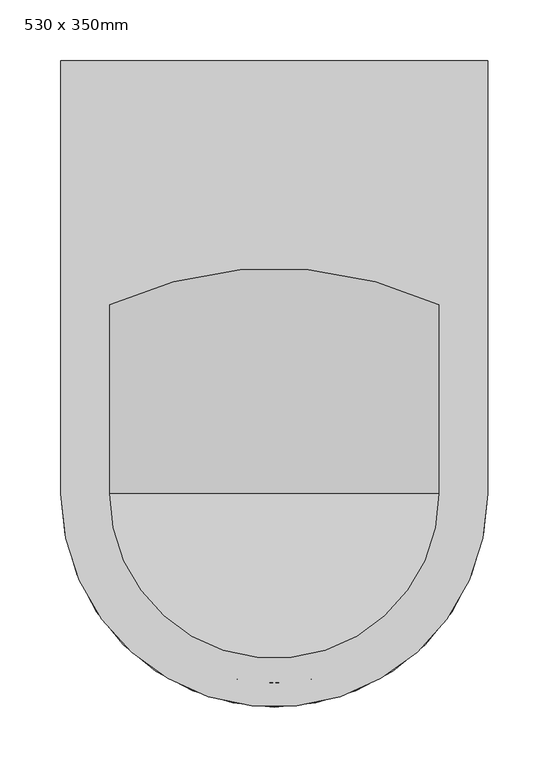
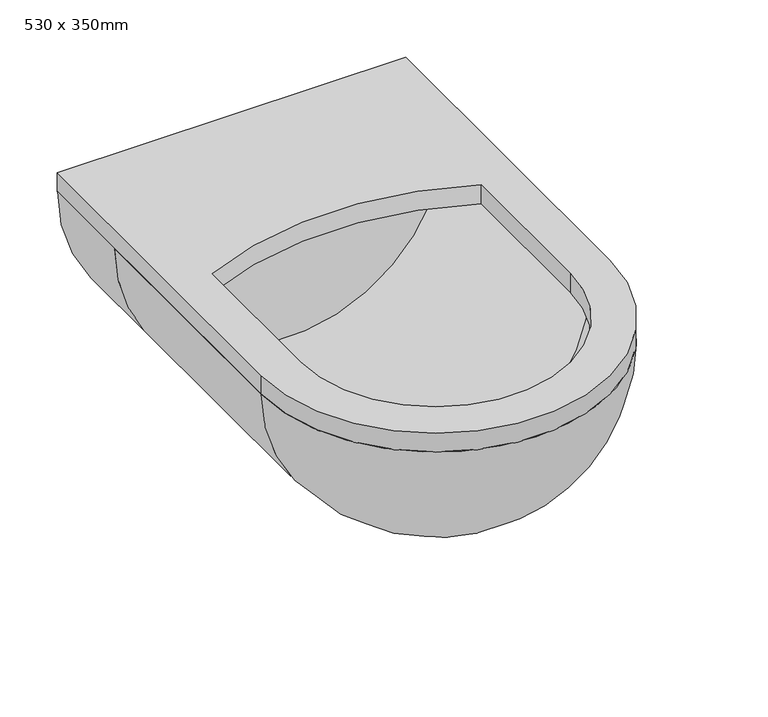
"""IFC4 building model written with IfcOpenShell, lengths in millimetres: flow terminal geometry, WC závěsné : 530 x 350mm."""

from ifc_helpers import new_model, si_unit, point, frame, frame_2d, origin, place, context, project, spatial, polyline, circle_curve, ellipse_curve, trimmed, segment, composite_curve, outline, extrude, source, transform, mapped, element, save
from ifc_brep_helpers import plane_surface, cylinder_surface, revolved_surface, extruded_surface, advanced_brep


def flow_terminal_530_x_350mm_1a9316c8(model_context):
    return source(origin(), model_context, "Body", "SolidModel", [
        advanced_brep(
        [(-175.0, -355.0, 287.3340796), (0.0, -530.0, 287.3340796), (0.0, -510.0, 287.3340796), (-155.0, -355.0, 287.3340796), (-155.0, -100.0, 287.3340796), (-175.0, -100.0, 287.3340796), (175.0, -355.0, 287.3340796), (175.0, -100.0, 287.3340796), (155.0, -100.0, 287.3340796), (155.0, -355.0, 287.3340796)],
        [
            (0, 1, circle_curve(frame((0.0, -355.0, 287.3340796), z_axis=(0.0, 0.0, 1.0), x_axis=(-1.0, 0.0, 0.0)), 175.0)),
            (1, 2),
            (2, 3, circle_curve(frame((0.0, -355.0, 287.3340796), z_axis=(0.0, 0.0, -1.0), x_axis=(-1.0, 0.0, 0.0)), 155.0)),
            (3, 4),
            (4, 5),
            (5, 0),
            (6, 7),
            (7, 8),
            (8, 9),
            (9, 2, circle_curve(frame((0.0, -355.0, 287.3340796), z_axis=(0.0, 0.0, -1.0), x_axis=(1.0, 0.0, 0.0)), 155.0)),
            (1, 6, circle_curve(frame((0.0, -355.0, 287.3340796), z_axis=(0.0, 0.0, 1.0), x_axis=(1.0, 0.0, 0.0)), 175.0)),
            (0, 6, circle_curve(frame((0.0, -355.0, 287.3340796), z_axis=(0.0, -1.0, 0.0), x_axis=(-1.0, 0.0, 0.0)), 175.0)),
            (9, 3, circle_curve(frame((0.0, -355.0, 287.3340796), z_axis=(0.0, 1.0, 0.0), x_axis=(-1.0, 0.0, 0.0)), 155.0)),
            (8, 4, circle_curve(frame((0.0, -100.0, 287.3340796), z_axis=(0.0, 1.0, 0.0), x_axis=(-1.0, 0.0, 0.0)), 155.0)),
            (7, 5, circle_curve(frame((0.0, -100.0, 287.3340796), z_axis=(0.0, 1.0, 0.0), x_axis=(-1.0, 0.0, 0.0)), 175.0)),
        ],
        [
            plane_surface(frame((0.0, -522.5663057, 287.3340796), z_axis=(0.0, 0.0, 1.0), x_axis=(-1.0, 0.0, 0.0))),
            plane_surface(frame((0.0, -522.5663057, 287.3340796), z_axis=(0.0, 0.0, 1.0), x_axis=(1.0, 0.0, 0.0))),
            revolved_surface(trimmed(ellipse_curve(frame((0.0, -355.0, 287.3340796), z_axis=(0.0, 0.0, 1.0), x_axis=(-1.0, 0.0, 0.0)), 175.0, 175.0), [point((-175.0, -355.0, 287.3340796))], [point((0.0, -530.0, 287.3340796))], True, "CARTESIAN"), (0.0, -522.5663057, 287.3340796), (0.0, -1.0, 0.0)),
            revolved_surface(trimmed(ellipse_curve(frame((0.0, -355.0, 287.3340796), z_axis=(0.0, 0.0, -1.0), x_axis=(-1.0, 0.0, 0.0)), 155.0, 155.0), [point((0.0, -510.0, 287.3340796))], [point((-155.0, -355.0, 287.3340796))], True, "CARTESIAN"), (0.0, -522.5663057, 287.3340796), (0.0, -1.0, 0.0)),
            revolved_surface(polyline([(-155.0, -355.0, 287.3340796), (-155.0, -100.0, 287.3340796)]), (0.0, -522.5663057, 287.3340796), (0.0, -1.0, 0.0)),
            plane_surface(frame((0.0, -100.0, 287.3340796), z_axis=(0.0, 1.0, 0.0), x_axis=(-1.0, 0.0, 0.0))),
            cylinder_surface(frame((0.0, -522.5663057, 287.3340796), z_axis=(0.0, -1.0, 0.0), x_axis=(-1.0, 0.0, 0.0)), 175.0),
        ],
        [
            (0, [[1, 2, 3, 4, 5, 6]]),
            (1, [[7, 8, 9, 10, -2, 11]]),
            (2, [[-1, 12, -11]]),
            (3, [[13, -3, -10]]),
            (4, [[14, -4, -13, -9]]),
            (5, [[15, -5, -14, -8]]),
            (6, [[-12, -6, -15, -7]]),
        ],
    ),
        advanced_brep(
        [(175.0497636, 0.0, 287.3340796), (-174.9502364, 0.0, 287.3340796), (175.0, -100.0, 287.3340796), (-175.0, -100.0, 287.3340796)],
        [
            (0, 1, circle_curve(frame((0.0497636, 0.0, 287.3340796), z_axis=(0.0, 1.0, 0.0), x_axis=(1.0, 0.0, 0.0)), 175.0)),
            (1, 0),
            (2, 3),
            (3, 2, circle_curve(frame((0.0, -100.0, 287.3340796), z_axis=(0.0, -1.0, 0.0), x_axis=(-1.0, 0.0, 0.0)), 175.0)),
            (3, 1),
            (0, 2),
        ],
        [
            plane_surface(frame((0.0497636, 0.0, 287.3340796), z_axis=(0.0, 1.0, 0.0), x_axis=(0.0, 0.0, -1.0))),
            plane_surface(frame((0.0, -100.0, 287.3340796), z_axis=(0.0, -1.0, 0.0), x_axis=(0.0, 0.0, -1.0))),
            extruded_surface(trimmed(circle_curve(frame((0.0, -100.0, 287.3340796), z_axis=(0.0, 1.0, 0.0), x_axis=(-1.0, 0.0, 0.0)), 175.0), [point((175.0, -100.0, 287.3340796))], [point((-175.0, -100.0, 287.3340796))], True, "CARTESIAN"), (0.0497636, 100.0, 0.0), 100.00001238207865),
            plane_surface(frame((0.0, -100.0, 287.3340796), z_axis=(0.0, 0.0, 1.0), x_axis=(1.0, 0.0, 0.0))),
        ],
        [
            (0, [[1, 2]]),
            (1, [[3, 4]]),
            (2, [[-4, 5, -1, 6]]),
            (3, [[-3, -6, -2, -5]]),
        ],
    ),
        extrude(outline(composite_curve([segment(polyline([(-175.0, -355.0), (-175.0, 0.0), (175.0, 0.0), (175.0, -355.0)]), True, "CONTINUOUS"), segment(trimmed(circle_curve(frame_2d((0.0, -355.0)), 175.0), [point((175.0, -355.0))], [point((-175.0, -355.0))], False, "CARTESIAN"), True, "CONTINUOUS")], self_intersect=False), holes=[composite_curve([segment(polyline([(-135.0, -200.0), (-135.0, -355.0)]), True, "CONTINUOUS"), segment(trimmed(circle_curve(frame_2d((0.0, -355.0)), 135.0), [point((-135.0, -355.0))], [point((135.0, -355.0))], True, "CARTESIAN"), True, "CONTINUOUS"), segment(polyline([(135.0, -355.0), (135.0, -200.0)]), True, "CONTINUOUS"), segment(trimmed(circle_curve(frame_2d((0.0, -490.6360914)), 320.4595725), [point((135.0, -200.0))], [point((-135.0, -200.0))], True, "CARTESIAN"), True, "CONTINUOUS")], self_intersect=False)]), frame((0.0, 0.0, 287.3340796), z_axis=(0.0, 0.0, 1.0), x_axis=(1.0, 0.0, 0.0)), (0.0, 0.0, 1.0), 20.0),
    ])


if __name__ == "__main__":
    model = new_model("IFC4")
    model_context = context("Model", 3, world=origin())
    ifc_project = project(units=[si_unit("LENGTHUNIT", "METRE", prefix="MILLI")], contexts=[model_context])
    site = spatial("IfcSite", under=ifc_project)
    building = spatial("IfcBuilding", under=site)
    placement = place(None, origin())
    flow_terminal_530_x_350mm_shape = flow_terminal_530_x_350mm_1a9316c8(model_context)
    element("IfcFlowTerminal", 1, ObjectType="WC závěsné : 530 x 350mm", at=placement, inside=building, context=model_context, shape_type="MappedRepresentation", body=[
        mapped(flow_terminal_530_x_350mm_shape, transform((0.0, 0.0, 0.0), x_axis=(1.0, 0.0, 0.0), y_axis=(0.0, 1.0, 0.0), z_axis=(0.0, 0.0, 1.0))),
    ])
    save(model, "model.ifc")
